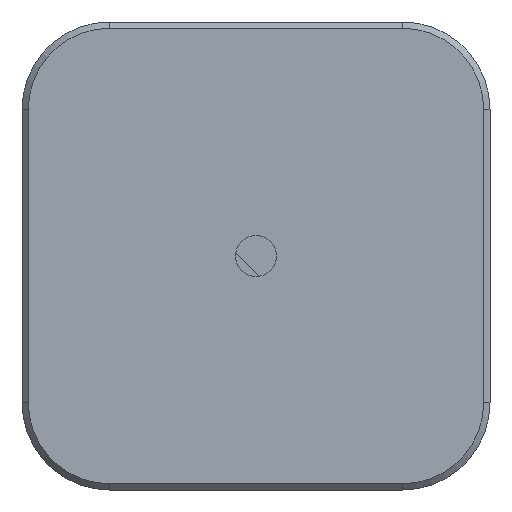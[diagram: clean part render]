
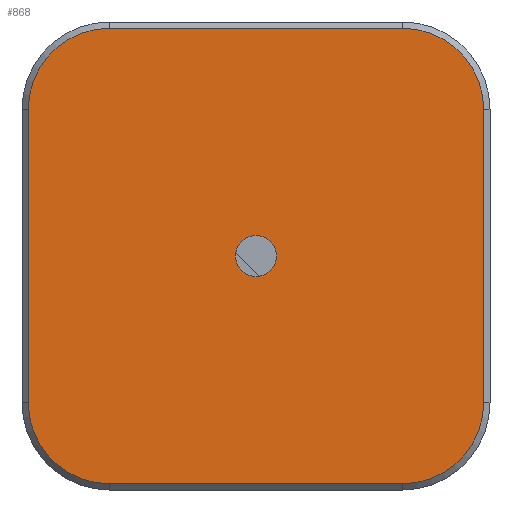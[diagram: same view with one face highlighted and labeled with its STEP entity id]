
A CAD part, front view. The second image highlights one B-rep face of the part: STEP entity #868.
In plain terms, the highlighted planar face has unit normal (0, -1, 0).
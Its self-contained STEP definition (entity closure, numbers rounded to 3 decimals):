
#1 = CIRCLE ( 'NONE', #4053, 6.5 ) ;
#158 = AXIS2_PLACEMENT_3D ( 'NONE', #5297, #2878, #8703 ) ;
#398 = EDGE_CURVE ( 'NONE', #8259, #2868, #2043, .T. ) ;
#420 = VERTEX_POINT ( 'NONE', #6248 ) ;
#430 = FACE_BOUND ( 'NONE', #1753, .T. ) ;
#717 = CARTESIAN_POINT ( 'NONE',  ( 11.75, 0., 11.75 ) ) ;
#790 = EDGE_LOOP ( 'NONE', ( #5574, #3536, #9005, #3197, #2150, #5940, #8362, #10080 ) ) ;
#868 = ADVANCED_FACE ( 'NONE', ( #2196, #430 ), #4568, .T. ) ;
#1009 = EDGE_CURVE ( 'NONE', #9775, #8259, #3638, .T. ) ;
#1146 = DIRECTION ( 'NONE',  ( 0., -1., 0. ) ) ;
#1489 = DIRECTION ( 'NONE',  ( 0., 0., 1. ) ) ;
#1490 = EDGE_CURVE ( 'NONE', #9403, #8691, #7678, .T. ) ;
#1576 = ORIENTED_EDGE ( 'NONE', *, *, #9701, .F. ) ;
#1753 = EDGE_LOOP ( 'NONE', ( #1576, #1799 ) ) ;
#1789 = CARTESIAN_POINT ( 'NONE',  ( 0., 0., 1.65 ) ) ;
#1799 = ORIENTED_EDGE ( 'NONE', *, *, #7326, .F. ) ;
#1983 = CARTESIAN_POINT ( 'NONE',  ( 11.75, 0., -11.75 ) ) ;
#2043 = LINE ( 'NONE', #10509, #2400 ) ;
#2102 = LINE ( 'NONE', #10396, #6807 ) ;
#2123 = CIRCLE ( 'NONE', #6315, 1.65 ) ;
#2134 = CARTESIAN_POINT ( 'NONE',  ( -11.75, 0., 18.25 ) ) ;
#2150 = ORIENTED_EDGE ( 'NONE', *, *, #9211, .T. ) ;
#2196 = FACE_OUTER_BOUND ( 'NONE', #790, .T. ) ;
#2279 = CARTESIAN_POINT ( 'NONE',  ( 0., 0., 0. ) ) ;
#2308 = DIRECTION ( 'NONE',  ( 0., 0., 1. ) ) ;
#2400 = VECTOR ( 'NONE', #3747, 1000. ) ;
#2606 = DIRECTION ( 'NONE',  ( 0., 0., 1. ) ) ;
#2868 = VERTEX_POINT ( 'NONE', #6168 ) ;
#2878 = DIRECTION ( 'NONE',  ( 0., -1., 0. ) ) ;
#3169 = DIRECTION ( 'NONE',  ( -1., 0., 0. ) ) ;
#3197 = ORIENTED_EDGE ( 'NONE', *, *, #398, .T. ) ;
#3328 = AXIS2_PLACEMENT_3D ( 'NONE', #4976, #4254, #2606 ) ;
#3386 = VERTEX_POINT ( 'NONE', #9560 ) ;
#3442 = EDGE_CURVE ( 'NONE', #8691, #9775, #3774, .T. ) ;
#3506 = CIRCLE ( 'NONE', #158, 1.65 ) ;
#3536 = ORIENTED_EDGE ( 'NONE', *, *, #3442, .T. ) ;
#3578 = DIRECTION ( 'NONE',  ( 0., 0., 1. ) ) ;
#3581 = DIRECTION ( 'NONE',  ( 1., 0., 0. ) ) ;
#3638 = CIRCLE ( 'NONE', #10149, 6.5 ) ;
#3747 = DIRECTION ( 'NONE',  ( 0., 0., -1. ) ) ;
#3774 = LINE ( 'NONE', #2134, #9802 ) ;
#3846 = CARTESIAN_POINT ( 'NONE',  ( 0., 0., 0. ) ) ;
#4053 = AXIS2_PLACEMENT_3D ( 'NONE', #1983, #1146, #3578 ) ;
#4130 = LINE ( 'NONE', #7481, #6542 ) ;
#4244 = CARTESIAN_POINT ( 'NONE',  ( 11.75, 0., 18.25 ) ) ;
#4254 = DIRECTION ( 'NONE',  ( 0., -1., 0. ) ) ;
#4568 = PLANE ( 'NONE',  #8550 ) ;
#4716 = AXIS2_PLACEMENT_3D ( 'NONE', #717, #8353, #1489 ) ;
#4976 = CARTESIAN_POINT ( 'NONE',  ( -11.75, 0., -11.75 ) ) ;
#4996 = EDGE_CURVE ( 'NONE', #10554, #420, #2102, .T. ) ;
#5297 = CARTESIAN_POINT ( 'NONE',  ( 0., 0., 0. ) ) ;
#5340 = CARTESIAN_POINT ( 'NONE',  ( 18.25, 0., 11.75 ) ) ;
#5574 = ORIENTED_EDGE ( 'NONE', *, *, #1490, .T. ) ;
#5722 = CARTESIAN_POINT ( 'NONE',  ( -11.75, 0., 18.25 ) ) ;
#5940 = ORIENTED_EDGE ( 'NONE', *, *, #4996, .T. ) ;
#6168 = CARTESIAN_POINT ( 'NONE',  ( -18.25, 0., -11.75 ) ) ;
#6248 = CARTESIAN_POINT ( 'NONE',  ( 11.75, 0., -18.25 ) ) ;
#6305 = DIRECTION ( 'NONE',  ( 0., -1., 0. ) ) ;
#6315 = AXIS2_PLACEMENT_3D ( 'NONE', #2279, #8152, #10432 ) ;
#6542 = VECTOR ( 'NONE', #8091, 1000. ) ;
#6807 = VECTOR ( 'NONE', #3581, 1000. ) ;
#6911 = EDGE_CURVE ( 'NONE', #420, #3386, #1, .T. ) ;
#7114 = CARTESIAN_POINT ( 'NONE',  ( -18.25, 0., 11.75 ) ) ;
#7326 = EDGE_CURVE ( 'NONE', #8815, #9507, #2123, .T. ) ;
#7481 = CARTESIAN_POINT ( 'NONE',  ( 18.25, 0., 11.75 ) ) ;
#7678 = CIRCLE ( 'NONE', #4716, 6.5 ) ;
#8091 = DIRECTION ( 'NONE',  ( 0., 0., 1. ) ) ;
#8152 = DIRECTION ( 'NONE',  ( 0., -1., 0. ) ) ;
#8259 = VERTEX_POINT ( 'NONE', #7114 ) ;
#8291 = CARTESIAN_POINT ( 'NONE',  ( -11.75, 0., 11.75 ) ) ;
#8353 = DIRECTION ( 'NONE',  ( 0., -1., 0. ) ) ;
#8362 = ORIENTED_EDGE ( 'NONE', *, *, #6911, .T. ) ;
#8384 = CARTESIAN_POINT ( 'NONE',  ( -11.75, 0., -18.25 ) ) ;
#8550 = AXIS2_PLACEMENT_3D ( 'NONE', #3846, #6305, #9579 ) ;
#8672 = EDGE_CURVE ( 'NONE', #3386, #9403, #4130, .T. ) ;
#8691 = VERTEX_POINT ( 'NONE', #4244 ) ;
#8703 = DIRECTION ( 'NONE',  ( 0., 0., 1. ) ) ;
#8815 = VERTEX_POINT ( 'NONE', #8857 ) ;
#8857 = CARTESIAN_POINT ( 'NONE',  ( 0., 0., -1.65 ) ) ;
#9005 = ORIENTED_EDGE ( 'NONE', *, *, #1009, .T. ) ;
#9211 = EDGE_CURVE ( 'NONE', #2868, #10554, #10879, .T. ) ;
#9403 = VERTEX_POINT ( 'NONE', #5340 ) ;
#9507 = VERTEX_POINT ( 'NONE', #1789 ) ;
#9560 = CARTESIAN_POINT ( 'NONE',  ( 18.25, 0., -11.75 ) ) ;
#9579 = DIRECTION ( 'NONE',  ( 0., 0., 1. ) ) ;
#9701 = EDGE_CURVE ( 'NONE', #9507, #8815, #3506, .T. ) ;
#9775 = VERTEX_POINT ( 'NONE', #5722 ) ;
#9802 = VECTOR ( 'NONE', #3169, 1000. ) ;
#9952 = DIRECTION ( 'NONE',  ( 0., -1., 0. ) ) ;
#10080 = ORIENTED_EDGE ( 'NONE', *, *, #8672, .T. ) ;
#10149 = AXIS2_PLACEMENT_3D ( 'NONE', #8291, #9952, #2308 ) ;
#10396 = CARTESIAN_POINT ( 'NONE',  ( 11.75, 0., -18.25 ) ) ;
#10432 = DIRECTION ( 'NONE',  ( 0., 0., 1. ) ) ;
#10509 = CARTESIAN_POINT ( 'NONE',  ( -18.25, 0., -11.75 ) ) ;
#10554 = VERTEX_POINT ( 'NONE', #8384 ) ;
#10879 = CIRCLE ( 'NONE', #3328, 6.5 ) ;
